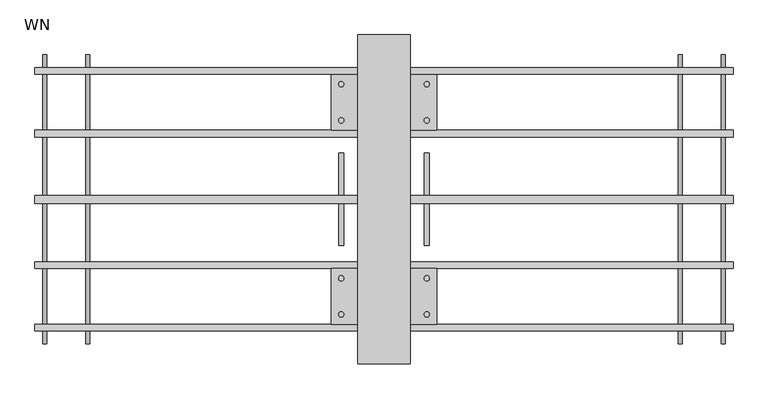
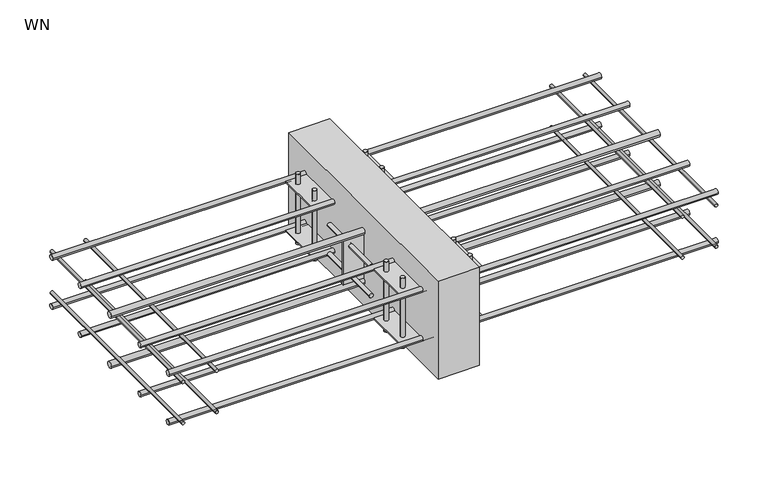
"""IFC4 building model written with IfcOpenShell, lengths in millimetres: fastener geometry, ACINOXplus_Typenreihe_WN : WN."""

import ifcopenshell
import ifcopenshell.guid

model = None  # the IFC model being written
_history = None  # IfcOwnerHistory: only IFC2X3 demands one
_inside = {}  # id of a spatial element -> (the spatial element, [elements in it])
_under = {}  # id of a project, library or spatial element -> (it, [spatial elements below it])
_declared = {}  # id of a project -> (the project, [libraries it declares])
_typed = {}  # id of a type object -> (the type object, [elements of that type])
_made_of = {}  # id of a material, layer set ... -> (it, [elements and type objects made of it])


def new_model(schema):
    """Start an empty IFC model of exactly this schema.

    Asked for "IFC4X3", IfcOpenShell would pick the latest addendum, in which some entities
    have other attributes; the version numbers below select the first issue.
    IFC2X3 requires an IfcOwnerHistory on every rooted entity: one is made here for all.
    """
    global model, _history
    if schema == "IFC4X3":
        model = ifcopenshell.file(schema_version=(4, 3, 0, 0))
    else:
        model = ifcopenshell.file(schema=schema)
    _inside.clear()
    _under.clear()
    _declared.clear()
    _typed.clear()
    _made_of.clear()
    _history = None
    if model.schema == "IFC2X3":
        org = make("IfcOrganization", Name="unknown")
        user = make(
            "IfcPersonAndOrganization",
            ThePerson=make("IfcPerson", FamilyName="unknown"),
            TheOrganization=org,
        )
        app = make(
            "IfcApplication",
            ApplicationDeveloper=org,
            Version="unknown",
            ApplicationFullName="unknown",
            ApplicationIdentifier="unknown",
        )
        _history = make(
            "IfcOwnerHistory",
            OwningUser=user,
            OwningApplication=app,
            ChangeAction="ADDED",
            CreationDate=0,
        )
    return model


def make(cls, **values):
    """One entity of the class cls with the attributes given. An attribute that is None is left unset."""
    return model.create_entity(
        cls, **{name: value for name, value in values.items() if value is not None}
    )


def rooted(cls, **values):
    """An entity with a GlobalId (a new one), such as an element, a storey or a relation."""
    return make(cls, GlobalId=ifcopenshell.guid.new(), OwnerHistory=_history, **values)


def si_unit(unit_type, name, prefix=None):
    """IfcSIUnit, for example si_unit("LENGTHUNIT", "METRE", prefix="MILLI")."""
    return make("IfcSIUnit", UnitType=unit_type, Prefix=prefix, Name=name)


def assignment(units):
    """IfcUnitAssignment: the units of a project."""
    return None if units is None else make("IfcUnitAssignment", Units=units)


def point(xyz):
    """IfcCartesianPoint."""
    return None if xyz is None else make("IfcCartesianPoint", Coordinates=xyz)


def direction(xyz):
    """IfcDirection."""
    return None if xyz is None else make("IfcDirection", DirectionRatios=xyz)


def frame(location, z_axis=None, x_axis=None):
    """IfcAxis2Placement3D, a coordinate frame: its origin and axes. An axis left out is left unset."""
    return make(
        "IfcAxis2Placement3D",
        Location=point(location),
        Axis=direction(z_axis),
        RefDirection=direction(x_axis),
    )


def frame_2d(location, x_axis=None):
    """IfcAxis2Placement2D, a coordinate frame in the plane: its origin and x axis."""
    return make(
        "IfcAxis2Placement2D", Location=point(location), RefDirection=direction(x_axis)
    )


def origin():
    """The frame at (0, 0, 0) with its axes left unset."""
    return frame((0.0, 0.0, 0.0))


def place(relative_to, where):
    """IfcLocalPlacement: puts the frame where relative to a parent placement (None: the world)."""
    return make(
        "IfcLocalPlacement", PlacementRelTo=relative_to, RelativePlacement=where
    )


def context(
    kind, dimensions, precision=None, world=None, true_north=None, identifier=None
):
    """IfcGeometricRepresentationContext, for example the 3D "Model" context."""
    return make(
        "IfcGeometricRepresentationContext",
        ContextIdentifier=identifier,
        ContextType=kind,
        CoordinateSpaceDimension=dimensions,
        Precision=precision,
        WorldCoordinateSystem=world,
        TrueNorth=true_north,
    )


def project(units=None, contexts=None):
    """IfcProject with its units and contexts."""
    return rooted(
        "IfcProject",
        Name="project",
        RepresentationContexts=contexts,
        UnitsInContext=assignment(units),
    )


def spatial(cls, under=None, at=None, **own):
    """A site, building, storey or space (cls), placed at a placement, below another one or the project."""
    s = rooted(cls, ObjectPlacement=at, **own)
    if under is not None:
        _under.setdefault(under.id(), (under, []))[1].append(s)
    return s


def polyline(points):
    """IfcPolyline through the points."""
    return make("IfcPolyline", Points=[point(p) for p in points])


def circle_curve(where, radius):
    """IfcCircle in the frame where."""
    return make("IfcCircle", Position=where, Radius=radius)


def trimmed(basis, trim1, trim2, sense, master):
    """IfcTrimmedCurve: the piece of a basis curve between two trims."""
    return make(
        "IfcTrimmedCurve",
        BasisCurve=basis,
        Trim1=trim1,
        Trim2=trim2,
        SenseAgreement=sense,
        MasterRepresentation=master,
    )


def segment(curve, same_sense, transition):
    """IfcCompositeCurveSegment."""
    return make(
        "IfcCompositeCurveSegment",
        Transition=transition,
        SameSense=same_sense,
        ParentCurve=curve,
    )


def composite_curve(segments, self_intersect=None):
    """IfcCompositeCurve: segments joined end to end."""
    return make("IfcCompositeCurve", Segments=segments, SelfIntersect=self_intersect)


def outline(outer, holes=None, kind="AREA"):
    """IfcArbitraryClosedProfileDef: a profile drawn as a closed curve; with holes, ...WithVoids."""
    if holes is None:
        return make("IfcArbitraryClosedProfileDef", ProfileType=kind, OuterCurve=outer)
    return make(
        "IfcArbitraryProfileDefWithVoids",
        ProfileType=kind,
        OuterCurve=outer,
        InnerCurves=holes,
    )


def extrude(swept, where, along, depth):
    """IfcExtrudedAreaSolid: the profile swept, set in the frame where, extruded along a direction by depth."""
    return make(
        "IfcExtrudedAreaSolid",
        SweptArea=swept,
        Position=where,
        ExtrudedDirection=direction(along),
        Depth=depth,
    )


def shape(context_of_items, identifier, shape_type, items):
    """IfcShapeRepresentation: the items that make up one representation, for example the "Body"."""
    return make(
        "IfcShapeRepresentation",
        ContextOfItems=context_of_items,
        RepresentationIdentifier=identifier,
        RepresentationType=shape_type,
        Items=items,
    )


def source(mapping_origin, context_of_items, identifier, shape_type, items):
    """IfcRepresentationMap: a shape defined once, which mapped items show again and again."""
    return make(
        "IfcRepresentationMap",
        MappingOrigin=mapping_origin,
        MappedRepresentation=shape(context_of_items, identifier, shape_type, items),
    )


def transform(
    local_origin,
    x_axis=None,
    y_axis=None,
    z_axis=None,
    scale=None,
    scale2=None,
    scale3=None,
    uniform=True,
):
    """IfcCartesianTransformationOperator3D, or its non-uniform kind. x_axis, y_axis, z_axis: its Axis1, 2, 3."""
    if uniform:
        return make(
            "IfcCartesianTransformationOperator3D",
            Axis1=direction(x_axis),
            Axis2=direction(y_axis),
            LocalOrigin=point(local_origin),
            Scale=scale,
            Axis3=direction(z_axis),
        )
    return make(
        "IfcCartesianTransformationOperator3DnonUniform",
        Axis1=direction(x_axis),
        Axis2=direction(y_axis),
        LocalOrigin=point(local_origin),
        Scale=scale,
        Axis3=direction(z_axis),
        Scale2=scale2,
        Scale3=scale3,
    )


def mapped(mapping_source, mapping_target):
    """IfcMappedItem: shows the shape of a source again, moved by a transform."""
    return make(
        "IfcMappedItem", MappingSource=mapping_source, MappingTarget=mapping_target
    )


def made_of(thing, what):
    """Note that an element or type object is made of a material, layer set ...; save() writes the relation."""
    if what is not None:
        _made_of.setdefault(what.id(), (what, []))[1].append(thing)
    return thing


def element(
    cls,
    number,
    at=None,
    inside=None,
    cuts=None,
    type_object=None,
    material=None,
    context=None,
    identifier="Body",
    shape_type=None,
    held_by="IfcProductDefinitionShape",
    body=None,
    shapes=None,
    **own,
):
    """One element of the class cls, such as IfcWall. Its Tag is "e" and its number.

    at: its placement. inside: the storey or other place that contains it. cuts: it is an
    opening in that element (IfcRelVoidsElement). A single representation is given by context,
    identifier, shape_type and body (its items); several are given by shapes. held_by: the class
    of the entity that holds the representations. save() writes the other relations.
    """
    e = rooted(cls, Tag="e%d" % number, ObjectPlacement=at, **own)
    if body is not None:
        shapes = [shape(context, identifier, shape_type, body)]
    if shapes is not None:
        e.Representation = make(held_by, Representations=shapes)
    if inside is not None:
        _inside.setdefault(inside.id(), (inside, []))[1].append(e)
    if cuts is not None:
        rooted(
            "IfcRelVoidsElement", RelatingBuildingElement=cuts, RelatedOpeningElement=e
        )
    if type_object is not None:
        _typed.setdefault(type_object.id(), (type_object, []))[1].append(e)
    return made_of(e, material)


def aggregate(whole, parts):
    """IfcRelAggregates: a whole, such as a stair, and the parts it consists of."""
    return rooted("IfcRelAggregates", RelatingObject=whole, RelatedObjects=parts)


def save(model, path):
    """Write the relations noted so far, then the file.

    IfcRelAggregates (storeys below a building ...), IfcRelContainedInSpatialStructure (elements
    in a storey), IfcRelDefinesByType, IfcRelAssociatesMaterial and IfcRelDeclares: one each for
    every whole, place, type object, material and project.
    """
    for whole, parts in _under.values():
        aggregate(whole, parts)
    for where, things in _inside.values():
        rooted(
            "IfcRelContainedInSpatialStructure",
            RelatedElements=things,
            RelatingStructure=where,
        )
    for kind, things in _typed.values():
        rooted("IfcRelDefinesByType", RelatedObjects=things, RelatingType=kind)
    for what, things in _made_of.values():
        rooted("IfcRelAssociatesMaterial", RelatedObjects=things, RelatingMaterial=what)
    for by, libraries in _declared.values():
        rooted("IfcRelDeclares", RelatingContext=by, RelatedDefinitions=libraries)
    model.write(path)


def plane_surface(at):
    """IfcPlane: the flat surface through the origin of the frame at, square to its z axis."""
    return make("IfcPlane", Position=at)


def cylinder_surface(at, radius):
    """IfcCylindricalSurface: all points at the distance radius from the z axis of the frame at."""
    return make("IfcCylindricalSurface", Position=at, Radius=radius)


def advanced_brep(points, edges, surfaces, faces):
    """IfcAdvancedBrep: a solid bounded by faces that lie on surfaces and meet in shared edges.

    An edge is (start, end): straight between two places in points (the first is 0);
    or (start, end, curve); or (start, end, curve, False) where it runs against its curve.
    A face is (place in surfaces, loops), or (place, loops, False) where it looks against
    its surface's normal. A loop lists edges by number (the first is 1), with a minus sign
    where the edge is run from its end to its start. The first loop is the outer one.
    """
    corners = [point(p) for p in points]
    vertices = [make("IfcVertexPoint", VertexGeometry=c) for c in corners]
    made = []
    for start, end, *more in edges:
        made.append(
            make(
                "IfcEdgeCurve",
                EdgeStart=vertices[start],
                EdgeEnd=vertices[end],
                EdgeGeometry=more[0] if more else make("IfcPolyline", Points=[corners[start], corners[end]]),
                SameSense=more[1] if len(more) > 1 else True,
            )
        )
    hull = []
    for where, loops, *sense in faces:
        bounds = []
        for j, loop in enumerate(loops):
            ring = [make("IfcOrientedEdge", EdgeElement=made[abs(k) - 1], Orientation=k > 0) for k in loop]
            bounds.append(
                make(
                    "IfcFaceOuterBound" if j == 0 else "IfcFaceBound",
                    Bound=make("IfcEdgeLoop", EdgeList=ring),
                    Orientation=True,
                )
            )
        hull.append(make("IfcAdvancedFace", Bounds=bounds, FaceSurface=surfaces[where], SameSense=sense[0] if sense else True))
    return make("IfcAdvancedBrep", Outer=make("IfcClosedShell", CfsFaces=hull))


def wn_ae22b578(model_context):
    return source(origin(), model_context, "Body", "SolidModel", [
        extrude(outline(composite_curve([segment(trimmed(circle_curve(frame_2d((-142.0, 515.0)), 3.0), [point((-142.0, 518.0))], [point((-142.0, 512.0))], False, "CARTESIAN"), True, "CONTINUOUS"), segment(trimmed(circle_curve(frame_2d((-142.0, 515.0)), 3.0), [point((-142.0, 512.0))], [point((-142.0, 518.0))], False, "CARTESIAN"), True, "CONTINUOUS")], self_intersect=False)), frame((0.0, -220.0, 0.0), z_axis=(0.0, 1.0, 0.0), x_axis=(0.0, 0.0, 1.0)), (0.0, 0.0, 1.0), 440.0),
        extrude(outline(composite_curve([segment(trimmed(circle_curve(frame_2d((-142.0, 450.0)), 3.0), [point((-142.0, 453.0))], [point((-142.0, 447.0))], False, "CARTESIAN"), True, "CONTINUOUS"), segment(trimmed(circle_curve(frame_2d((-142.0, 450.0)), 3.0), [point((-142.0, 447.0))], [point((-142.0, 453.0))], False, "CARTESIAN"), True, "CONTINUOUS")], self_intersect=False)), frame((0.0, -220.0, 0.0), z_axis=(0.0, 1.0, 0.0), x_axis=(0.0, 0.0, 1.0)), (0.0, 0.0, 1.0), 440.0),
        extrude(outline(composite_curve([segment(trimmed(circle_curve(frame_2d((-142.0, -450.0)), 3.0), [point((-142.0, -447.0))], [point((-142.0, -453.0))], False, "CARTESIAN"), True, "CONTINUOUS"), segment(trimmed(circle_curve(frame_2d((-142.0, -450.0)), 3.0), [point((-142.0, -453.0))], [point((-142.0, -447.0))], False, "CARTESIAN"), True, "CONTINUOUS")], self_intersect=False)), frame((0.0, -220.0, 0.0), z_axis=(0.0, 1.0, 0.0), x_axis=(0.0, 0.0, 1.0)), (0.0, 0.0, 1.0), 440.0),
        extrude(outline(composite_curve([segment(trimmed(circle_curve(frame_2d((-142.0, -515.0)), 3.0), [point((-142.0, -512.0))], [point((-142.0, -518.0))], False, "CARTESIAN"), True, "CONTINUOUS"), segment(trimmed(circle_curve(frame_2d((-142.0, -515.0)), 3.0), [point((-142.0, -518.0))], [point((-142.0, -512.0))], False, "CARTESIAN"), True, "CONTINUOUS")], self_intersect=False)), frame((0.0, -220.0, 0.0), z_axis=(0.0, 1.0, 0.0), x_axis=(0.0, 0.0, 1.0)), (0.0, 0.0, 1.0), 440.0),
        extrude(outline(composite_curve([segment(trimmed(circle_curve(frame_2d((-58.0, 515.0)), 3.0), [point((-58.0, 518.0))], [point((-58.0, 512.0))], False, "CARTESIAN"), True, "CONTINUOUS"), segment(trimmed(circle_curve(frame_2d((-58.0, 515.0)), 3.0), [point((-58.0, 512.0))], [point((-58.0, 518.0))], False, "CARTESIAN"), True, "CONTINUOUS")], self_intersect=False)), frame((0.0, -220.0, 0.0), z_axis=(0.0, 1.0, 0.0), x_axis=(0.0, 0.0, 1.0)), (0.0, 0.0, 1.0), 440.0),
        extrude(outline(composite_curve([segment(trimmed(circle_curve(frame_2d((-58.0, 450.0)), 3.0), [point((-58.0, 453.0))], [point((-58.0, 447.0))], False, "CARTESIAN"), True, "CONTINUOUS"), segment(trimmed(circle_curve(frame_2d((-58.0, 450.0)), 3.0), [point((-58.0, 447.0))], [point((-58.0, 453.0))], False, "CARTESIAN"), True, "CONTINUOUS")], self_intersect=False)), frame((0.0, -220.0, 0.0), z_axis=(0.0, 1.0, 0.0), x_axis=(0.0, 0.0, 1.0)), (0.0, 0.0, 1.0), 440.0),
        extrude(outline(composite_curve([segment(trimmed(circle_curve(frame_2d((-58.0, -450.0)), 3.0), [point((-58.0, -447.0))], [point((-58.0, -453.0))], False, "CARTESIAN"), True, "CONTINUOUS"), segment(trimmed(circle_curve(frame_2d((-58.0, -450.0)), 3.0), [point((-58.0, -453.0))], [point((-58.0, -447.0))], False, "CARTESIAN"), True, "CONTINUOUS")], self_intersect=False)), frame((0.0, -220.0, 0.0), z_axis=(0.0, 1.0, 0.0), x_axis=(0.0, 0.0, 1.0)), (0.0, 0.0, 1.0), 440.0),
        extrude(outline(composite_curve([segment(trimmed(circle_curve(frame_2d((-58.0, -515.0)), 3.0), [point((-58.0, -512.0))], [point((-58.0, -518.0))], False, "CARTESIAN"), True, "CONTINUOUS"), segment(trimmed(circle_curve(frame_2d((-58.0, -515.0)), 3.0), [point((-58.0, -518.0))], [point((-58.0, -512.0))], False, "CARTESIAN"), True, "CONTINUOUS")], self_intersect=False)), frame((0.0, -220.0, 0.0), z_axis=(0.0, 1.0, 0.0), x_axis=(0.0, 0.0, 1.0)), (0.0, 0.0, 1.0), 440.0),
        extrude(outline(composite_curve([segment(trimmed(circle_curve(frame_2d((0.0, -151.0)), 6.0), [point((-6.0, -151.0))], [point((6.0, -151.0))], False, "CARTESIAN"), True, "CONTINUOUS"), segment(trimmed(circle_curve(frame_2d((0.0, -151.0)), 6.0), [point((6.0, -151.0))], [point((-6.0, -151.0))], False, "CARTESIAN"), True, "CONTINUOUS")], self_intersect=False)), frame((-530.0, 0.0, 0.0), z_axis=(1.0, 0.0, 0.0), x_axis=(0.0, 1.0, 0.0)), (0.0, 0.0, 1.0), 1060.0),
        extrude(outline(composite_curve([segment(trimmed(circle_curve(frame_2d((0.0, -49.0)), 6.0), [point((-6.0, -49.0))], [point((6.0, -49.0))], False, "CARTESIAN"), True, "CONTINUOUS"), segment(trimmed(circle_curve(frame_2d((0.0, -49.0)), 6.0), [point((6.0, -49.0))], [point((-6.0, -49.0))], False, "CARTESIAN"), True, "CONTINUOUS")], self_intersect=False)), frame((-530.0, 0.0, 0.0), z_axis=(1.0, 0.0, 0.0), x_axis=(0.0, 1.0, 0.0)), (0.0, 0.0, 1.0), 1060.0),
        extrude(outline(composite_curve([segment(trimmed(circle_curve(frame_2d((-70.0, -65.0202196)), 4.0), [point((-70.0, -69.0202196))], [point((-70.0, -61.0202196))], False, "CARTESIAN"), True, "CONTINUOUS"), segment(trimmed(circle_curve(frame_2d((-70.0, -65.0202196)), 4.0), [point((-70.0, -61.0202196))], [point((-70.0, -69.0202196))], False, "CARTESIAN"), True, "CONTINUOUS")], self_intersect=False)), frame((0.0, -70.0, 0.0), z_axis=(0.0, 1.0, 0.0), x_axis=(0.0, 0.0, 1.0)), (0.0, 0.0, 1.0), 140.0),
        extrude(outline(composite_curve([segment(trimmed(circle_curve(frame_2d((-70.0, 65.0)), 4.0), [point((-70.0, 61.0))], [point((-70.0, 69.0))], False, "CARTESIAN"), True, "CONTINUOUS"), segment(trimmed(circle_curve(frame_2d((-70.0, 65.0)), 4.0), [point((-70.0, 69.0))], [point((-70.0, 61.0))], False, "CARTESIAN"), True, "CONTINUOUS")], self_intersect=False)), frame((0.0, -70.0, 0.0), z_axis=(0.0, 1.0, 0.0), x_axis=(0.0, 0.0, 1.0)), (0.0, 0.0, 1.0), 140.0),
        extrude(outline(composite_curve([segment(trimmed(circle_curve(frame_2d((-130.0, 65.0)), 4.0), [point((-130.0, 61.0))], [point((-130.0, 69.0))], False, "CARTESIAN"), True, "CONTINUOUS"), segment(trimmed(circle_curve(frame_2d((-130.0, 65.0)), 4.0), [point((-130.0, 69.0))], [point((-130.0, 61.0))], False, "CARTESIAN"), True, "CONTINUOUS")], self_intersect=False)), frame((0.0, -70.0, 0.0), z_axis=(0.0, 1.0, 0.0), x_axis=(0.0, 0.0, 1.0)), (0.0, 0.0, 1.0), 140.0),
        extrude(outline(composite_curve([segment(trimmed(circle_curve(frame_2d((-130.0, -65.0202196)), 4.0), [point((-130.0, -69.0202196))], [point((-130.0, -61.0202196))], False, "CARTESIAN"), True, "CONTINUOUS"), segment(trimmed(circle_curve(frame_2d((-130.0, -65.0202196)), 4.0), [point((-130.0, -61.0202196))], [point((-130.0, -69.0202196))], False, "CARTESIAN"), True, "CONTINUOUS")], self_intersect=False)), frame((0.0, -70.0, 0.0), z_axis=(0.0, 1.0, 0.0), x_axis=(0.0, 0.0, 1.0)), (0.0, 0.0, 1.0), 140.0),
        extrude(outline(polyline([(80.0, -1.5), (-80.0202196, -1.5), (-80.0202196, 1.5), (80.0, 1.5), (80.0, -1.5)])), frame((0.0, 0.0, -145.0), z_axis=(0.0, 0.0, 1.0), x_axis=(1.0, 0.0, 0.0)), (0.0, 0.0, 1.0), 90.0),
        extrude(outline(composite_curve([segment(trimmed(circle_curve(frame_2d((-195.0, -50.0)), 5.0), [point((-200.0, -50.0))], [point((-190.0, -50.0))], False, "CARTESIAN"), True, "CONTINUOUS"), segment(trimmed(circle_curve(frame_2d((-195.0, -50.0)), 5.0), [point((-190.0, -50.0))], [point((-200.0, -50.0))], False, "CARTESIAN"), True, "CONTINUOUS")], self_intersect=False)), frame((-530.0, 0.0, 0.0), z_axis=(1.0, 0.0, 0.0), x_axis=(0.0, 1.0, 0.0)), (0.0, 0.0, 1.0), 1060.0),
        extrude(outline(composite_curve([segment(trimmed(circle_curve(frame_2d((-100.0, -50.0)), 5.0), [point((-105.0, -50.0))], [point((-95.0, -50.0))], False, "CARTESIAN"), True, "CONTINUOUS"), segment(trimmed(circle_curve(frame_2d((-100.0, -50.0)), 5.0), [point((-95.0, -50.0))], [point((-105.0, -50.0))], False, "CARTESIAN"), True, "CONTINUOUS")], self_intersect=False)), frame((-530.0, 0.0, 0.0), z_axis=(1.0, 0.0, 0.0), x_axis=(0.0, 1.0, 0.0)), (0.0, 0.0, 1.0), 1060.0),
        extrude(outline(composite_curve([segment(trimmed(circle_curve(frame_2d((-195.0, -150.0)), 5.0), [point((-200.0, -150.0))], [point((-190.0, -150.0))], False, "CARTESIAN"), True, "CONTINUOUS"), segment(trimmed(circle_curve(frame_2d((-195.0, -150.0)), 5.0), [point((-190.0, -150.0))], [point((-200.0, -150.0))], False, "CARTESIAN"), True, "CONTINUOUS")], self_intersect=False)), frame((-530.0, 0.0, 0.0), z_axis=(1.0, 0.0, 0.0), x_axis=(0.0, 1.0, 0.0)), (0.0, 0.0, 1.0), 1060.0),
        extrude(outline(composite_curve([segment(trimmed(circle_curve(frame_2d((-100.0, -150.0)), 5.0), [point((-105.0, -150.0))], [point((-95.0, -150.0))], False, "CARTESIAN"), True, "CONTINUOUS"), segment(trimmed(circle_curve(frame_2d((-100.0, -150.0)), 5.0), [point((-95.0, -150.0))], [point((-105.0, -150.0))], False, "CARTESIAN"), True, "CONTINUOUS")], self_intersect=False)), frame((-530.0, 0.0, 0.0), z_axis=(1.0, 0.0, 0.0), x_axis=(0.0, 1.0, 0.0)), (0.0, 0.0, 1.0), 1060.0),
        advanced_brep(
        [(80.0, -105.0, -48.5), (-80.0, -105.0, -48.5), (-80.0, -190.0, -48.5), (80.0, -190.0, -48.5), (-61.0, -120.0, -48.5), (-69.0, -120.0, -48.5), (69.0, -120.0, -48.5), (61.0, -120.0, -48.5), (-61.0, -175.0, -48.5), (-69.0, -175.0, -48.5), (69.0, -175.0, -48.5), (61.0, -175.0, -48.5), (80.0, -105.0, -51.5), (80.0, -190.0, -51.5), (-80.0, -190.0, -51.5), (-80.0, -105.0, -51.5), (-69.0, -120.0, -51.5), (-61.0, -120.0, -51.5), (61.0, -120.0, -51.5), (69.0, -120.0, -51.5), (-69.0, -175.0, -51.5), (-61.0, -175.0, -51.5), (61.0, -175.0, -51.5), (69.0, -175.0, -51.5), (-69.0, -120.0, -28.5), (-61.0, -120.0, -28.5), (61.0, -120.0, -28.5), (69.0, -120.0, -28.5), (-69.0, -175.0, -28.5), (-61.0, -175.0, -28.5), (61.0, -175.0, -28.5), (69.0, -175.0, -28.5), (-69.0, -120.0, -171.5), (-61.0, -120.0, -171.5), (61.0, -120.0, -171.5), (69.0, -120.0, -171.5), (-69.0, -175.0, -171.5), (-61.0, -175.0, -171.5), (61.0, -175.0, -171.5), (69.0, -175.0, -171.5), (-69.0, -120.0, -148.5), (-61.0, -120.0, -148.5), (-61.0, -120.0, -151.5), (-69.0, -120.0, -151.5), (61.0, -120.0, -148.5), (69.0, -120.0, -148.5), (69.0, -120.0, -151.5), (61.0, -120.0, -151.5), (-69.0, -175.0, -148.5), (-61.0, -175.0, -148.5), (-61.0, -175.0, -151.5), (-69.0, -175.0, -151.5), (61.0, -175.0, -148.5), (69.0, -175.0, -148.5), (69.0, -175.0, -151.5), (61.0, -175.0, -151.5), (80.0, -105.0, -148.5), (-80.0, -105.0, -148.5), (-80.0, -190.0, -148.5), (80.0, -190.0, -148.5), (80.0, -105.0, -151.5), (80.0, -190.0, -151.5), (-80.0, -190.0, -151.5), (-80.0, -105.0, -151.5)],
        [
            (0, 1),
            (1, 2),
            (2, 3),
            (3, 0),
            (4, 5, circle_curve(frame((-65.0, -120.0, -48.5), z_axis=(0.0, 0.0, -1.0), x_axis=(1.0, 0.0, 0.0)), 4.0)),
            (5, 4, circle_curve(frame((-65.0, -120.0, -48.5), z_axis=(0.0, 0.0, -1.0), x_axis=(1.0, 0.0, 0.0)), 4.0)),
            (6, 7, circle_curve(frame((65.0, -120.0, -48.5), z_axis=(0.0, 0.0, -1.0), x_axis=(1.0, 0.0, 0.0)), 4.0)),
            (7, 6, circle_curve(frame((65.0, -120.0, -48.5), z_axis=(0.0, 0.0, -1.0), x_axis=(1.0, 0.0, 0.0)), 4.0)),
            (8, 9, circle_curve(frame((-65.0, -175.0, -48.5), z_axis=(0.0, 0.0, -1.0), x_axis=(1.0, 0.0, 0.0)), 4.0)),
            (9, 8, circle_curve(frame((-65.0, -175.0, -48.5), z_axis=(0.0, 0.0, -1.0), x_axis=(1.0, 0.0, 0.0)), 4.0)),
            (10, 11, circle_curve(frame((65.0, -175.0, -48.5), z_axis=(0.0, 0.0, -1.0), x_axis=(1.0, 0.0, 0.0)), 4.0)),
            (11, 10, circle_curve(frame((65.0, -175.0, -48.5), z_axis=(0.0, 0.0, -1.0), x_axis=(1.0, 0.0, 0.0)), 4.0)),
            (12, 13),
            (13, 14),
            (14, 15),
            (15, 12),
            (16, 17, circle_curve(frame((-65.0, -120.0, -51.5), z_axis=(0.0, 0.0, 1.0), x_axis=(1.0, 0.0, 0.0)), 4.0)),
            (17, 16, circle_curve(frame((-65.0, -120.0, -51.5), z_axis=(0.0, 0.0, 1.0), x_axis=(1.0, 0.0, 0.0)), 4.0)),
            (18, 19, circle_curve(frame((65.0, -120.0, -51.5), z_axis=(0.0, 0.0, 1.0), x_axis=(1.0, 0.0, 0.0)), 4.0)),
            (19, 18, circle_curve(frame((65.0, -120.0, -51.5), z_axis=(0.0, 0.0, 1.0), x_axis=(1.0, 0.0, 0.0)), 4.0)),
            (20, 21, circle_curve(frame((-65.0, -175.0, -51.5), z_axis=(0.0, 0.0, 1.0), x_axis=(1.0, 0.0, 0.0)), 4.0)),
            (21, 20, circle_curve(frame((-65.0, -175.0, -51.5), z_axis=(0.0, 0.0, 1.0), x_axis=(1.0, 0.0, 0.0)), 4.0)),
            (22, 23, circle_curve(frame((65.0, -175.0, -51.5), z_axis=(0.0, 0.0, 1.0), x_axis=(1.0, 0.0, 0.0)), 4.0)),
            (23, 22, circle_curve(frame((65.0, -175.0, -51.5), z_axis=(0.0, 0.0, 1.0), x_axis=(1.0, 0.0, 0.0)), 4.0)),
            (0, 12),
            (15, 1),
            (14, 2),
            (13, 3),
            (24, 25, circle_curve(frame((-65.0, -120.0, -28.5), z_axis=(0.0, 0.0, 1.0), x_axis=(1.0, 0.0, 0.0)), 4.0)),
            (25, 24, circle_curve(frame((-65.0, -120.0, -28.5), z_axis=(0.0, 0.0, 1.0), x_axis=(1.0, 0.0, 0.0)), 4.0)),
            (26, 27, circle_curve(frame((65.0, -120.0, -28.5), z_axis=(0.0, 0.0, 1.0), x_axis=(1.0, 0.0, 0.0)), 4.0)),
            (27, 26, circle_curve(frame((65.0, -120.0, -28.5), z_axis=(0.0, 0.0, 1.0), x_axis=(1.0, 0.0, 0.0)), 4.0)),
            (28, 29, circle_curve(frame((-65.0, -175.0, -28.5), z_axis=(0.0, 0.0, 1.0), x_axis=(1.0, 0.0, 0.0)), 4.0)),
            (29, 28, circle_curve(frame((-65.0, -175.0, -28.5), z_axis=(0.0, 0.0, 1.0), x_axis=(1.0, 0.0, 0.0)), 4.0)),
            (30, 31, circle_curve(frame((65.0, -175.0, -28.5), z_axis=(0.0, 0.0, 1.0), x_axis=(1.0, 0.0, 0.0)), 4.0)),
            (31, 30, circle_curve(frame((65.0, -175.0, -28.5), z_axis=(0.0, 0.0, 1.0), x_axis=(1.0, 0.0, 0.0)), 4.0)),
            (32, 33, circle_curve(frame((-65.0, -120.0, -171.5), z_axis=(0.0, 0.0, -1.0), x_axis=(1.0, 0.0, 0.0)), 4.0)),
            (33, 32, circle_curve(frame((-65.0, -120.0, -171.5), z_axis=(0.0, 0.0, -1.0), x_axis=(1.0, 0.0, 0.0)), 4.0)),
            (34, 35, circle_curve(frame((65.0, -120.0, -171.5), z_axis=(0.0, 0.0, -1.0), x_axis=(1.0, 0.0, 0.0)), 4.0)),
            (35, 34, circle_curve(frame((65.0, -120.0, -171.5), z_axis=(0.0, 0.0, -1.0), x_axis=(1.0, 0.0, 0.0)), 4.0)),
            (36, 37, circle_curve(frame((-65.0, -175.0, -171.5), z_axis=(0.0, 0.0, -1.0), x_axis=(1.0, 0.0, 0.0)), 4.0)),
            (37, 36, circle_curve(frame((-65.0, -175.0, -171.5), z_axis=(0.0, 0.0, -1.0), x_axis=(1.0, 0.0, 0.0)), 4.0)),
            (38, 39, circle_curve(frame((65.0, -175.0, -171.5), z_axis=(0.0, 0.0, -1.0), x_axis=(1.0, 0.0, 0.0)), 4.0)),
            (39, 38, circle_curve(frame((65.0, -175.0, -171.5), z_axis=(0.0, 0.0, -1.0), x_axis=(1.0, 0.0, 0.0)), 4.0)),
            (16, 40),
            (40, 41, circle_curve(frame((-65.0, -120.0, -148.5), z_axis=(0.0, 0.0, 1.0), x_axis=(1.0, 0.0, 0.0)), 4.0)),
            (41, 17),
            (24, 5),
            (4, 25),
            (33, 42),
            (42, 43, circle_curve(frame((-65.0, -120.0, -151.5), z_axis=(0.0, 0.0, -1.0), x_axis=(1.0, 0.0, 0.0)), 4.0)),
            (43, 32),
            (41, 40, circle_curve(frame((-65.0, -120.0, -148.5), z_axis=(0.0, 0.0, 1.0), x_axis=(1.0, 0.0, 0.0)), 4.0)),
            (43, 42, circle_curve(frame((-65.0, -120.0, -151.5), z_axis=(0.0, 0.0, -1.0), x_axis=(1.0, 0.0, 0.0)), 4.0)),
            (18, 44),
            (44, 45, circle_curve(frame((65.0, -120.0, -148.5), z_axis=(0.0, 0.0, 1.0), x_axis=(1.0, 0.0, 0.0)), 4.0)),
            (45, 19),
            (26, 7),
            (6, 27),
            (35, 46),
            (46, 47, circle_curve(frame((65.0, -120.0, -151.5), z_axis=(0.0, 0.0, -1.0), x_axis=(1.0, 0.0, 0.0)), 4.0)),
            (47, 34),
            (45, 44, circle_curve(frame((65.0, -120.0, -148.5), z_axis=(0.0, 0.0, 1.0), x_axis=(1.0, 0.0, 0.0)), 4.0)),
            (47, 46, circle_curve(frame((65.0, -120.0, -151.5), z_axis=(0.0, 0.0, -1.0), x_axis=(1.0, 0.0, 0.0)), 4.0)),
            (20, 48),
            (48, 49, circle_curve(frame((-65.0, -175.0, -148.5), z_axis=(0.0, 0.0, 1.0), x_axis=(1.0, 0.0, 0.0)), 4.0)),
            (49, 21),
            (28, 9),
            (8, 29),
            (37, 50),
            (50, 51, circle_curve(frame((-65.0, -175.0, -151.5), z_axis=(0.0, 0.0, -1.0), x_axis=(1.0, 0.0, 0.0)), 4.0)),
            (51, 36),
            (49, 48, circle_curve(frame((-65.0, -175.0, -148.5), z_axis=(0.0, 0.0, 1.0), x_axis=(1.0, 0.0, 0.0)), 4.0)),
            (51, 50, circle_curve(frame((-65.0, -175.0, -151.5), z_axis=(0.0, 0.0, -1.0), x_axis=(1.0, 0.0, 0.0)), 4.0)),
            (22, 52),
            (52, 53, circle_curve(frame((65.0, -175.0, -148.5), z_axis=(0.0, 0.0, 1.0), x_axis=(1.0, 0.0, 0.0)), 4.0)),
            (53, 23),
            (30, 11),
            (10, 31),
            (39, 54),
            (54, 55, circle_curve(frame((65.0, -175.0, -151.5), z_axis=(0.0, 0.0, -1.0), x_axis=(1.0, 0.0, 0.0)), 4.0)),
            (55, 38),
            (53, 52, circle_curve(frame((65.0, -175.0, -148.5), z_axis=(0.0, 0.0, 1.0), x_axis=(1.0, 0.0, 0.0)), 4.0)),
            (55, 54, circle_curve(frame((65.0, -175.0, -151.5), z_axis=(0.0, 0.0, -1.0), x_axis=(1.0, 0.0, 0.0)), 4.0)),
            (56, 57),
            (57, 58),
            (58, 59),
            (59, 56),
            (60, 61),
            (61, 62),
            (62, 63),
            (63, 60),
            (56, 60),
            (63, 57),
            (62, 58),
            (61, 59),
        ],
        [
            plane_surface(frame((-80.0, -105.0, -48.5), z_axis=(0.0, 0.0, 1.0), x_axis=(-1.0, 0.0, 0.0))),
            plane_surface(frame((-80.0, -105.0, -51.5), z_axis=(0.0, 0.0, -1.0), x_axis=(1.0, 0.0, 0.0))),
            plane_surface(frame((80.0, -105.0, -48.5), z_axis=(0.0, 1.0, 0.0), x_axis=(0.0, 0.0, -1.0))),
            plane_surface(frame((-80.0, -105.0, -48.5), z_axis=(-1.0, 0.0, 0.0), x_axis=(0.0, 0.0, -1.0))),
            plane_surface(frame((-80.0, -190.0, -48.5), z_axis=(0.0, -1.0, 0.0), x_axis=(0.0, 0.0, -1.0))),
            plane_surface(frame((80.0, -190.0, -48.5), z_axis=(1.0, 0.0, 0.0), x_axis=(0.0, 0.0, -1.0))),
            plane_surface(frame((-61.0, -120.0, -28.5), z_axis=(0.0, 0.0, 1.0), x_axis=(0.0, 1.0, 0.0))),
            plane_surface(frame((-61.0, -120.0, -171.5), z_axis=(0.0, 0.0, -1.0), x_axis=(0.0, -1.0, 0.0))),
            cylinder_surface(frame((-65.0, -120.0, -171.5), z_axis=(0.0, 0.0, 1.0), x_axis=(1.0, 0.0, 0.0)), 4.0),
            cylinder_surface(frame((65.0, -120.0, -155.0), z_axis=(0.0, 0.0, 1.0), x_axis=(1.0, 0.0, 0.0)), 4.0),
            cylinder_surface(frame((-65.0, -175.0, -155.0), z_axis=(0.0, 0.0, 1.0), x_axis=(1.0, 0.0, 0.0)), 4.0),
            cylinder_surface(frame((65.0, -175.0, -155.0), z_axis=(0.0, 0.0, 1.0), x_axis=(1.0, 0.0, 0.0)), 4.0),
            plane_surface(frame((-80.0, -105.0, -148.5), z_axis=(0.0, 0.0, 1.0), x_axis=(-1.0, 0.0, 0.0))),
            plane_surface(frame((-80.0, -105.0, -151.5), z_axis=(0.0, 0.0, -1.0), x_axis=(1.0, 0.0, 0.0))),
            plane_surface(frame((80.0, -105.0, -148.5), z_axis=(0.0, 1.0, 0.0), x_axis=(0.0, 0.0, -1.0))),
            plane_surface(frame((-80.0, -105.0, -148.5), z_axis=(-1.0, 0.0, 0.0), x_axis=(0.0, 0.0, -1.0))),
            plane_surface(frame((-80.0, -190.0, -148.5), z_axis=(0.0, -1.0, 0.0), x_axis=(0.0, 0.0, -1.0))),
            plane_surface(frame((80.0, -190.0, -148.5), z_axis=(1.0, 0.0, 0.0), x_axis=(0.0, 0.0, -1.0))),
        ],
        [
            (0, [[1, 2, 3, 4], [5, 6], [7, 8], [9, 10], [11, 12]]),
            (1, [[13, 14, 15, 16], [17, 18], [19, 20], [21, 22], [23, 24]]),
            (2, [[-1, 25, -16, 26]]),
            (3, [[-2, -26, -15, 27]]),
            (4, [[-3, -27, -14, 28]]),
            (5, [[-4, -28, -13, -25]]),
            (6, [[29, 30]]),
            (6, [[31, 32]]),
            (6, [[33, 34]]),
            (6, [[35, 36]]),
            (7, [[37, 38]]),
            (7, [[39, 40]]),
            (7, [[41, 42]]),
            (7, [[43, 44]]),
            (8, [[-17, 45, 46, 47]]),
            (8, [[-29, 48, -5, 49]]),
            (8, [[-38, 50, 51, 52]]),
            (8, [[-18, -47, 53, -45]]),
            (8, [[-30, -49, -6, -48]]),
            (8, [[-37, -52, 54, -50]]),
            (9, [[-19, 55, 56, 57]]),
            (9, [[-31, 58, -7, 59]]),
            (9, [[-40, 60, 61, 62]]),
            (9, [[-20, -57, 63, -55]]),
            (9, [[-32, -59, -8, -58]]),
            (9, [[-39, -62, 64, -60]]),
            (10, [[-21, 65, 66, 67]]),
            (10, [[-33, 68, -9, 69]]),
            (10, [[-42, 70, 71, 72]]),
            (10, [[-22, -67, 73, -65]]),
            (10, [[-34, -69, -10, -68]]),
            (10, [[-41, -72, 74, -70]]),
            (11, [[-23, 75, 76, 77]]),
            (11, [[-35, 78, -11, 79]]),
            (11, [[-44, 80, 81, 82]]),
            (11, [[-24, -77, 83, -75]]),
            (11, [[-36, -79, -12, -78]]),
            (11, [[-43, -82, 84, -80]]),
            (12, [[85, 86, 87, 88], [-46, -53], [-56, -63], [-66, -73], [-76, -83]]),
            (13, [[89, 90, 91, 92], [-51, -54], [-61, -64], [-71, -74], [-81, -84]]),
            (14, [[-85, 93, -92, 94]]),
            (15, [[-86, -94, -91, 95]]),
            (16, [[-87, -95, -90, 96]]),
            (17, [[-88, -96, -89, -93]]),
        ],
    ),
        extrude(outline(composite_curve([segment(trimmed(circle_curve(frame_2d((100.0, -50.0)), 5.0), [point((95.0, -50.0))], [point((105.0, -50.0))], False, "CARTESIAN"), True, "CONTINUOUS"), segment(trimmed(circle_curve(frame_2d((100.0, -50.0)), 5.0), [point((105.0, -50.0))], [point((95.0, -50.0))], False, "CARTESIAN"), True, "CONTINUOUS")], self_intersect=False)), frame((-530.0, 0.0, 0.0), z_axis=(1.0, 0.0, 0.0), x_axis=(0.0, 1.0, 0.0)), (0.0, 0.0, 1.0), 1060.0),
        extrude(outline(composite_curve([segment(trimmed(circle_curve(frame_2d((195.0, -50.0)), 5.0), [point((190.0, -50.0))], [point((200.0, -50.0))], False, "CARTESIAN"), True, "CONTINUOUS"), segment(trimmed(circle_curve(frame_2d((195.0, -50.0)), 5.0), [point((200.0, -50.0))], [point((190.0, -50.0))], False, "CARTESIAN"), True, "CONTINUOUS")], self_intersect=False)), frame((-530.0, 0.0, 0.0), z_axis=(1.0, 0.0, 0.0), x_axis=(0.0, 1.0, 0.0)), (0.0, 0.0, 1.0), 1060.0),
        extrude(outline(composite_curve([segment(trimmed(circle_curve(frame_2d((100.0, -150.0)), 5.0), [point((95.0, -150.0))], [point((105.0, -150.0))], False, "CARTESIAN"), True, "CONTINUOUS"), segment(trimmed(circle_curve(frame_2d((100.0, -150.0)), 5.0), [point((105.0, -150.0))], [point((95.0, -150.0))], False, "CARTESIAN"), True, "CONTINUOUS")], self_intersect=False)), frame((-530.0, 0.0, 0.0), z_axis=(1.0, 0.0, 0.0), x_axis=(0.0, 1.0, 0.0)), (0.0, 0.0, 1.0), 1060.0),
        extrude(outline(composite_curve([segment(trimmed(circle_curve(frame_2d((195.0, -150.0)), 5.0), [point((190.0, -150.0))], [point((200.0, -150.0))], False, "CARTESIAN"), True, "CONTINUOUS"), segment(trimmed(circle_curve(frame_2d((195.0, -150.0)), 5.0), [point((200.0, -150.0))], [point((190.0, -150.0))], False, "CARTESIAN"), True, "CONTINUOUS")], self_intersect=False)), frame((-530.0, 0.0, 0.0), z_axis=(1.0, 0.0, 0.0), x_axis=(0.0, 1.0, 0.0)), (0.0, 0.0, 1.0), 1060.0),
        advanced_brep(
        [(80.0, 190.0, -48.5), (-80.0, 190.0, -48.5), (-80.0, 105.0, -48.5), (80.0, 105.0, -48.5), (-61.0, 175.0, -48.5), (-69.0, 175.0, -48.5), (69.0, 175.0, -48.5), (61.0, 175.0, -48.5), (-61.0, 120.0, -48.5), (-69.0, 120.0, -48.5), (69.0, 120.0, -48.5), (61.0, 120.0, -48.5), (80.0, 190.0, -51.5), (80.0, 105.0, -51.5), (-80.0, 105.0, -51.5), (-80.0, 190.0, -51.5), (-69.0, 175.0, -51.5), (-61.0, 175.0, -51.5), (61.0, 175.0, -51.5), (69.0, 175.0, -51.5), (-69.0, 120.0, -51.5), (-61.0, 120.0, -51.5), (61.0, 120.0, -51.5), (69.0, 120.0, -51.5), (-69.0, 175.0, -28.5), (-61.0, 175.0, -28.5), (61.0, 175.0, -28.5), (69.0, 175.0, -28.5), (-69.0, 120.0, -28.5), (-61.0, 120.0, -28.5), (61.0, 120.0, -28.5), (69.0, 120.0, -28.5), (-69.0, 175.0, -171.5), (-61.0, 175.0, -171.5), (61.0, 175.0, -171.5), (69.0, 175.0, -171.5), (-69.0, 120.0, -171.5), (-61.0, 120.0, -171.5), (61.0, 120.0, -171.5), (69.0, 120.0, -171.5), (-69.0, 175.0, -148.5), (-61.0, 175.0, -148.5), (-61.0, 175.0, -151.5), (-69.0, 175.0, -151.5), (61.0, 175.0, -148.5), (69.0, 175.0, -148.5), (69.0, 175.0, -151.5), (61.0, 175.0, -151.5), (-69.0, 120.0, -148.5), (-61.0, 120.0, -148.5), (-61.0, 120.0, -151.5), (-69.0, 120.0, -151.5), (61.0, 120.0, -148.5), (69.0, 120.0, -148.5), (69.0, 120.0, -151.5), (61.0, 120.0, -151.5), (80.0, 190.0, -148.5), (-80.0, 190.0, -148.5), (-80.0, 105.0, -148.5), (80.0, 105.0, -148.5), (80.0, 190.0, -151.5), (80.0, 105.0, -151.5), (-80.0, 105.0, -151.5), (-80.0, 190.0, -151.5)],
        [
            (0, 1),
            (1, 2),
            (2, 3),
            (3, 0),
            (4, 5, circle_curve(frame((-65.0, 175.0, -48.5), z_axis=(0.0, 0.0, -1.0), x_axis=(1.0, 0.0, 0.0)), 4.0)),
            (5, 4, circle_curve(frame((-65.0, 175.0, -48.5), z_axis=(0.0, 0.0, -1.0), x_axis=(1.0, 0.0, 0.0)), 4.0)),
            (6, 7, circle_curve(frame((65.0, 175.0, -48.5), z_axis=(0.0, 0.0, -1.0), x_axis=(1.0, 0.0, 0.0)), 4.0)),
            (7, 6, circle_curve(frame((65.0, 175.0, -48.5), z_axis=(0.0, 0.0, -1.0), x_axis=(1.0, 0.0, 0.0)), 4.0)),
            (8, 9, circle_curve(frame((-65.0, 120.0, -48.5), z_axis=(0.0, 0.0, -1.0), x_axis=(1.0, 0.0, 0.0)), 4.0)),
            (9, 8, circle_curve(frame((-65.0, 120.0, -48.5), z_axis=(0.0, 0.0, -1.0), x_axis=(1.0, 0.0, 0.0)), 4.0)),
            (10, 11, circle_curve(frame((65.0, 120.0, -48.5), z_axis=(0.0, 0.0, -1.0), x_axis=(1.0, 0.0, 0.0)), 4.0)),
            (11, 10, circle_curve(frame((65.0, 120.0, -48.5), z_axis=(0.0, 0.0, -1.0), x_axis=(1.0, 0.0, 0.0)), 4.0)),
            (12, 13),
            (13, 14),
            (14, 15),
            (15, 12),
            (16, 17, circle_curve(frame((-65.0, 175.0, -51.5), z_axis=(0.0, 0.0, 1.0), x_axis=(1.0, 0.0, 0.0)), 4.0)),
            (17, 16, circle_curve(frame((-65.0, 175.0, -51.5), z_axis=(0.0, 0.0, 1.0), x_axis=(1.0, 0.0, 0.0)), 4.0)),
            (18, 19, circle_curve(frame((65.0, 175.0, -51.5), z_axis=(0.0, 0.0, 1.0), x_axis=(1.0, 0.0, 0.0)), 4.0)),
            (19, 18, circle_curve(frame((65.0, 175.0, -51.5), z_axis=(0.0, 0.0, 1.0), x_axis=(1.0, 0.0, 0.0)), 4.0)),
            (20, 21, circle_curve(frame((-65.0, 120.0, -51.5), z_axis=(0.0, 0.0, 1.0), x_axis=(1.0, 0.0, 0.0)), 4.0)),
            (21, 20, circle_curve(frame((-65.0, 120.0, -51.5), z_axis=(0.0, 0.0, 1.0), x_axis=(1.0, 0.0, 0.0)), 4.0)),
            (22, 23, circle_curve(frame((65.0, 120.0, -51.5), z_axis=(0.0, 0.0, 1.0), x_axis=(1.0, 0.0, 0.0)), 4.0)),
            (23, 22, circle_curve(frame((65.0, 120.0, -51.5), z_axis=(0.0, 0.0, 1.0), x_axis=(1.0, 0.0, 0.0)), 4.0)),
            (0, 12),
            (15, 1),
            (14, 2),
            (13, 3),
            (24, 25, circle_curve(frame((-65.0, 175.0, -28.5), z_axis=(0.0, 0.0, 1.0), x_axis=(1.0, 0.0, 0.0)), 4.0)),
            (25, 24, circle_curve(frame((-65.0, 175.0, -28.5), z_axis=(0.0, 0.0, 1.0), x_axis=(1.0, 0.0, 0.0)), 4.0)),
            (26, 27, circle_curve(frame((65.0, 175.0, -28.5), z_axis=(0.0, 0.0, 1.0), x_axis=(1.0, 0.0, 0.0)), 4.0)),
            (27, 26, circle_curve(frame((65.0, 175.0, -28.5), z_axis=(0.0, 0.0, 1.0), x_axis=(1.0, 0.0, 0.0)), 4.0)),
            (28, 29, circle_curve(frame((-65.0, 120.0, -28.5), z_axis=(0.0, 0.0, 1.0), x_axis=(1.0, 0.0, 0.0)), 4.0)),
            (29, 28, circle_curve(frame((-65.0, 120.0, -28.5), z_axis=(0.0, 0.0, 1.0), x_axis=(1.0, 0.0, 0.0)), 4.0)),
            (30, 31, circle_curve(frame((65.0, 120.0, -28.5), z_axis=(0.0, 0.0, 1.0), x_axis=(1.0, 0.0, 0.0)), 4.0)),
            (31, 30, circle_curve(frame((65.0, 120.0, -28.5), z_axis=(0.0, 0.0, 1.0), x_axis=(1.0, 0.0, 0.0)), 4.0)),
            (32, 33, circle_curve(frame((-65.0, 175.0, -171.5), z_axis=(0.0, 0.0, -1.0), x_axis=(1.0, 0.0, 0.0)), 4.0)),
            (33, 32, circle_curve(frame((-65.0, 175.0, -171.5), z_axis=(0.0, 0.0, -1.0), x_axis=(1.0, 0.0, 0.0)), 4.0)),
            (34, 35, circle_curve(frame((65.0, 175.0, -171.5), z_axis=(0.0, 0.0, -1.0), x_axis=(1.0, 0.0, 0.0)), 4.0)),
            (35, 34, circle_curve(frame((65.0, 175.0, -171.5), z_axis=(0.0, 0.0, -1.0), x_axis=(1.0, 0.0, 0.0)), 4.0)),
            (36, 37, circle_curve(frame((-65.0, 120.0, -171.5), z_axis=(0.0, 0.0, -1.0), x_axis=(1.0, 0.0, 0.0)), 4.0)),
            (37, 36, circle_curve(frame((-65.0, 120.0, -171.5), z_axis=(0.0, 0.0, -1.0), x_axis=(1.0, 0.0, 0.0)), 4.0)),
            (38, 39, circle_curve(frame((65.0, 120.0, -171.5), z_axis=(0.0, 0.0, -1.0), x_axis=(1.0, 0.0, 0.0)), 4.0)),
            (39, 38, circle_curve(frame((65.0, 120.0, -171.5), z_axis=(0.0, 0.0, -1.0), x_axis=(1.0, 0.0, 0.0)), 4.0)),
            (16, 40),
            (40, 41, circle_curve(frame((-65.0, 175.0, -148.5), z_axis=(0.0, 0.0, 1.0), x_axis=(1.0, 0.0, 0.0)), 4.0)),
            (41, 17),
            (24, 5),
            (4, 25),
            (33, 42),
            (42, 43, circle_curve(frame((-65.0, 175.0, -151.5), z_axis=(0.0, 0.0, -1.0), x_axis=(1.0, 0.0, 0.0)), 4.0)),
            (43, 32),
            (41, 40, circle_curve(frame((-65.0, 175.0, -148.5), z_axis=(0.0, 0.0, 1.0), x_axis=(1.0, 0.0, 0.0)), 4.0)),
            (43, 42, circle_curve(frame((-65.0, 175.0, -151.5), z_axis=(0.0, 0.0, -1.0), x_axis=(1.0, 0.0, 0.0)), 4.0)),
            (18, 44),
            (44, 45, circle_curve(frame((65.0, 175.0, -148.5), z_axis=(0.0, 0.0, 1.0), x_axis=(1.0, 0.0, 0.0)), 4.0)),
            (45, 19),
            (26, 7),
            (6, 27),
            (35, 46),
            (46, 47, circle_curve(frame((65.0, 175.0, -151.5), z_axis=(0.0, 0.0, -1.0), x_axis=(1.0, 0.0, 0.0)), 4.0)),
            (47, 34),
            (45, 44, circle_curve(frame((65.0, 175.0, -148.5), z_axis=(0.0, 0.0, 1.0), x_axis=(1.0, 0.0, 0.0)), 4.0)),
            (47, 46, circle_curve(frame((65.0, 175.0, -151.5), z_axis=(0.0, 0.0, -1.0), x_axis=(1.0, 0.0, 0.0)), 4.0)),
            (20, 48),
            (48, 49, circle_curve(frame((-65.0, 120.0, -148.5), z_axis=(0.0, 0.0, 1.0), x_axis=(1.0, 0.0, 0.0)), 4.0)),
            (49, 21),
            (28, 9),
            (8, 29),
            (37, 50),
            (50, 51, circle_curve(frame((-65.0, 120.0, -151.5), z_axis=(0.0, 0.0, -1.0), x_axis=(1.0, 0.0, 0.0)), 4.0)),
            (51, 36),
            (49, 48, circle_curve(frame((-65.0, 120.0, -148.5), z_axis=(0.0, 0.0, 1.0), x_axis=(1.0, 0.0, 0.0)), 4.0)),
            (51, 50, circle_curve(frame((-65.0, 120.0, -151.5), z_axis=(0.0, 0.0, -1.0), x_axis=(1.0, 0.0, 0.0)), 4.0)),
            (22, 52),
            (52, 53, circle_curve(frame((65.0, 120.0, -148.5), z_axis=(0.0, 0.0, 1.0), x_axis=(1.0, 0.0, 0.0)), 4.0)),
            (53, 23),
            (30, 11),
            (10, 31),
            (39, 54),
            (54, 55, circle_curve(frame((65.0, 120.0, -151.5), z_axis=(0.0, 0.0, -1.0), x_axis=(1.0, 0.0, 0.0)), 4.0)),
            (55, 38),
            (53, 52, circle_curve(frame((65.0, 120.0, -148.5), z_axis=(0.0, 0.0, 1.0), x_axis=(1.0, 0.0, 0.0)), 4.0)),
            (55, 54, circle_curve(frame((65.0, 120.0, -151.5), z_axis=(0.0, 0.0, -1.0), x_axis=(1.0, 0.0, 0.0)), 4.0)),
            (56, 57),
            (57, 58),
            (58, 59),
            (59, 56),
            (60, 61),
            (61, 62),
            (62, 63),
            (63, 60),
            (56, 60),
            (63, 57),
            (62, 58),
            (61, 59),
        ],
        [
            plane_surface(frame((-80.0, 190.0, -48.5), z_axis=(0.0, 0.0, 1.0), x_axis=(-1.0, 0.0, 0.0))),
            plane_surface(frame((-80.0, 190.0, -51.5), z_axis=(0.0, 0.0, -1.0), x_axis=(1.0, 0.0, 0.0))),
            plane_surface(frame((80.0, 190.0, -48.5), z_axis=(0.0, 1.0, 0.0), x_axis=(0.0, 0.0, -1.0))),
            plane_surface(frame((-80.0, 190.0, -48.5), z_axis=(-1.0, 0.0, 0.0), x_axis=(0.0, 0.0, -1.0))),
            plane_surface(frame((-80.0, 105.0, -48.5), z_axis=(0.0, -1.0, 0.0), x_axis=(0.0, 0.0, -1.0))),
            plane_surface(frame((80.0, 105.0, -48.5), z_axis=(1.0, 0.0, 0.0), x_axis=(0.0, 0.0, -1.0))),
            plane_surface(frame((-61.0, 175.0, -28.5), z_axis=(0.0, 0.0, 1.0), x_axis=(0.0, 1.0, 0.0))),
            plane_surface(frame((-61.0, 175.0, -171.5), z_axis=(0.0, 0.0, -1.0), x_axis=(0.0, -1.0, 0.0))),
            cylinder_surface(frame((-65.0, 175.0, -171.5), z_axis=(0.0, 0.0, 1.0), x_axis=(1.0, 0.0, 0.0)), 4.0),
            cylinder_surface(frame((65.0, 175.0, -155.0), z_axis=(0.0, 0.0, 1.0), x_axis=(1.0, 0.0, 0.0)), 4.0),
            cylinder_surface(frame((-65.0, 120.0, -155.0), z_axis=(0.0, 0.0, 1.0), x_axis=(1.0, 0.0, 0.0)), 4.0),
            cylinder_surface(frame((65.0, 120.0, -155.0), z_axis=(0.0, 0.0, 1.0), x_axis=(1.0, 0.0, 0.0)), 4.0),
            plane_surface(frame((-80.0, 190.0, -148.5), z_axis=(0.0, 0.0, 1.0), x_axis=(-1.0, 0.0, 0.0))),
            plane_surface(frame((-80.0, 190.0, -151.5), z_axis=(0.0, 0.0, -1.0), x_axis=(1.0, 0.0, 0.0))),
            plane_surface(frame((80.0, 190.0, -148.5), z_axis=(0.0, 1.0, 0.0), x_axis=(0.0, 0.0, -1.0))),
            plane_surface(frame((-80.0, 190.0, -148.5), z_axis=(-1.0, 0.0, 0.0), x_axis=(0.0, 0.0, -1.0))),
            plane_surface(frame((-80.0, 105.0, -148.5), z_axis=(0.0, -1.0, 0.0), x_axis=(0.0, 0.0, -1.0))),
            plane_surface(frame((80.0, 105.0, -148.5), z_axis=(1.0, 0.0, 0.0), x_axis=(0.0, 0.0, -1.0))),
        ],
        [
            (0, [[1, 2, 3, 4], [5, 6], [7, 8], [9, 10], [11, 12]]),
            (1, [[13, 14, 15, 16], [17, 18], [19, 20], [21, 22], [23, 24]]),
            (2, [[-1, 25, -16, 26]]),
            (3, [[-2, -26, -15, 27]]),
            (4, [[-3, -27, -14, 28]]),
            (5, [[-4, -28, -13, -25]]),
            (6, [[29, 30]]),
            (6, [[31, 32]]),
            (6, [[33, 34]]),
            (6, [[35, 36]]),
            (7, [[37, 38]]),
            (7, [[39, 40]]),
            (7, [[41, 42]]),
            (7, [[43, 44]]),
            (8, [[-17, 45, 46, 47]]),
            (8, [[-29, 48, -5, 49]]),
            (8, [[-38, 50, 51, 52]]),
            (8, [[-18, -47, 53, -45]]),
            (8, [[-30, -49, -6, -48]]),
            (8, [[-37, -52, 54, -50]]),
            (9, [[-19, 55, 56, 57]]),
            (9, [[-31, 58, -7, 59]]),
            (9, [[-40, 60, 61, 62]]),
            (9, [[-20, -57, 63, -55]]),
            (9, [[-32, -59, -8, -58]]),
            (9, [[-39, -62, 64, -60]]),
            (10, [[-21, 65, 66, 67]]),
            (10, [[-33, 68, -9, 69]]),
            (10, [[-42, 70, 71, 72]]),
            (10, [[-22, -67, 73, -65]]),
            (10, [[-34, -69, -10, -68]]),
            (10, [[-41, -72, 74, -70]]),
            (11, [[-23, 75, 76, 77]]),
            (11, [[-35, 78, -11, 79]]),
            (11, [[-44, 80, 81, 82]]),
            (11, [[-24, -77, 83, -75]]),
            (11, [[-36, -79, -12, -78]]),
            (11, [[-43, -82, 84, -80]]),
            (12, [[85, 86, 87, 88], [-46, -53], [-56, -63], [-66, -73], [-76, -83]]),
            (13, [[89, 90, 91, 92], [-51, -54], [-61, -64], [-71, -74], [-81, -84]]),
            (14, [[-85, 93, -92, 94]]),
            (15, [[-86, -94, -91, 95]]),
            (16, [[-87, -95, -90, 96]]),
            (17, [[-88, -96, -89, -93]]),
        ],
    ),
        extrude(outline(polyline([(40.0, 250.0), (40.0, -250.0), (-40.0, -250.0), (-40.0, 250.0), (40.0, 250.0)])), frame((0.0, 0.0, -200.0), z_axis=(0.0, 0.0, 1.0), x_axis=(1.0, 0.0, 0.0)), (0.0, 0.0, 1.0), 200.0),
    ])


if __name__ == "__main__":
    model = new_model("IFC4")
    model_context = context("Model", 3, world=origin())
    ifc_project = project(units=[si_unit("LENGTHUNIT", "METRE", prefix="MILLI")], contexts=[model_context])
    site = spatial("IfcSite", under=ifc_project)
    building = spatial("IfcBuilding", under=site)
    placement = place(None, origin())
    wn_shape = wn_ae22b578(model_context)
    element("IfcFastener", 1, ObjectType="ACINOXplus_Typenreihe_WN : WN", at=placement, inside=building, context=model_context, shape_type="MappedRepresentation", body=[
        mapped(wn_shape, transform((0.0, 0.0, 0.0), x_axis=(1.0, 0.0, 0.0), y_axis=(0.0, 1.0, 0.0), z_axis=(0.0, 0.0, 1.0))),
    ])
    save(model, "model.ifc")
